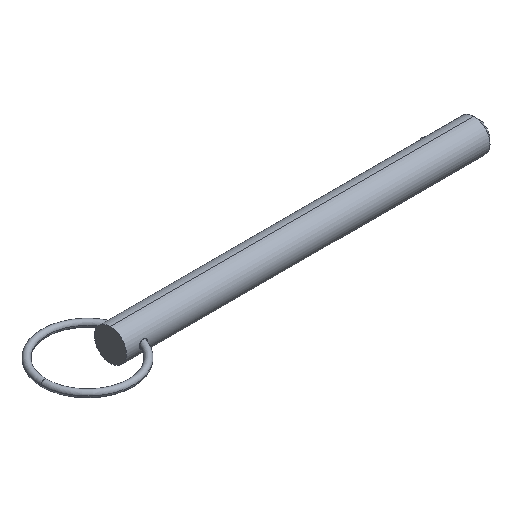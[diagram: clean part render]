
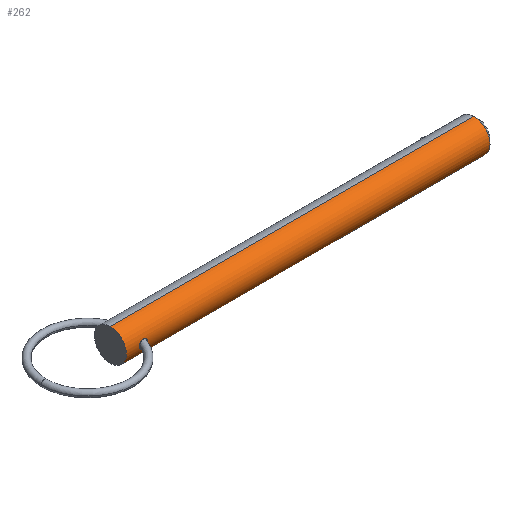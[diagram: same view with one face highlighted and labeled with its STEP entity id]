
A CAD part, isometric view. The second image highlights one B-rep face of the part: STEP entity #262.
In plain terms, the highlighted cylindrical face has radius 4.7 mm (diameter 9.4 mm), a partial arc.
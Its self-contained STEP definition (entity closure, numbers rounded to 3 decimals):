
#12 = CARTESIAN_POINT ( 'NONE',  ( 106.775, 0., 4.7 ) ) ;
#27 = CARTESIAN_POINT ( 'NONE',  ( 3.818, -4.7, 0.16 ) ) ;
#34 = CARTESIAN_POINT ( 'NONE',  ( 106.775, 0., -4.7 ) ) ;
#53 = CARTESIAN_POINT ( 'NONE',  ( 3.829, -4.698, -0.161 ) ) ;
#64 = CARTESIAN_POINT ( 'NONE',  ( 6.094, -4.642, -0.742 ) ) ;
#72 = ORIENTED_EDGE ( 'NONE', *, *, #95, .T. ) ;
#95 = EDGE_CURVE ( 'NONE', #682, #363, #247, .T. ) ;
#126 = CARTESIAN_POINT ( 'NONE',  ( 3.895, -4.684, -0.39 ) ) ;
#128 = B_SPLINE_CURVE_WITH_KNOTS ( 'NONE', 3,
 ( #635, #27, #834, #241, #514, #299, #697, #172, #569, #771, #232, #505, #162, #706, #441, #381, #639, #534, #198, #657, #473, #327 ),
 .UNSPECIFIED., .F., .F.,
 ( 4, 2, 2, 2, 2, 2, 2, 2, 2, 2, 4 ),
 ( 0.001, 0.001, 0.002, 0.002, 0.003, 0.003, 0.003, 0.004, 0.004, 0.004, 0.005 ),
 .UNSPECIFIED. ) ;
#130 = CARTESIAN_POINT ( 'NONE',  ( 3.818, -4.7, 0. ) ) ;
#132 = AXIS2_PLACEMENT_3D ( 'NONE', #860, #462, #269 ) ;
#133 = LINE ( 'NONE', #538, #661 ) ;
#136 = CARTESIAN_POINT ( 'NONE',  ( 4.349, -4.607, -0.937 ) ) ;
#140 = ORIENTED_EDGE ( 'NONE', *, *, #417, .T. ) ;
#151 = VERTEX_POINT ( 'NONE', #469 ) ;
#162 = CARTESIAN_POINT ( 'NONE',  ( 5.503, -4.562, 1.13 ) ) ;
#166 = CARTESIAN_POINT ( 'NONE',  ( 6.35, -4.7, 0. ) ) ;
#172 = CARTESIAN_POINT ( 'NONE',  ( 4.788, -4.561, 1.135 ) ) ;
#186 = CYLINDRICAL_SURFACE ( 'NONE', #132, 4.7 ) ;
#198 = CARTESIAN_POINT ( 'NONE',  ( 6.193, -4.662, 0.614 ) ) ;
#232 = CARTESIAN_POINT ( 'NONE',  ( 5.266, -4.551, 1.173 ) ) ;
#240 = CARTESIAN_POINT ( 'NONE',  ( 6.35, -4.7, -0.161 ) ) ;
#241 = CARTESIAN_POINT ( 'NONE',  ( 4.005, -4.663, 0.605 ) ) ;
#242 = EDGE_CURVE ( 'NONE', #353, #700, #133, .T. ) ;
#246 = CARTESIAN_POINT ( 'NONE',  ( 0., 0., 4.7 ) ) ;
#247 = B_SPLINE_CURVE_WITH_KNOTS ( 'NONE', 3,
 ( #166, #240, #402, #595, #271, #64, #718, #736, #651, #733, #798, #398, #264, #655, #136, #725, #591, #126, #527, #53, #475, #130 ),
 .UNSPECIFIED., .F., .F.,
 ( 4, 2, 2, 2, 2, 2, 2, 2, 2, 2, 4 ),
 ( 0.005, 0.005, 0.005, 0.006, 0.006, 0.007, 0.007, 0.008, 0.008, 0.008, 0.009 ),
 .UNSPECIFIED. ) ;
#255 = EDGE_CURVE ( 'NONE', #700, #828, #813, .T. ) ;
#257 = FACE_BOUND ( 'NONE', #495, .T. ) ;
#262 = ADVANCED_FACE ( 'NONE', ( #600, #257 ), #186, .T. ) ;
#264 = CARTESIAN_POINT ( 'NONE',  ( 4.785, -4.561, -1.135 ) ) ;
#269 = DIRECTION ( 'NONE',  ( 0., 0., -1. ) ) ;
#271 = CARTESIAN_POINT ( 'NONE',  ( 6.185, -4.66, -0.612 ) ) ;
#283 = ORIENTED_EDGE ( 'NONE', *, *, #255, .F. ) ;
#299 = CARTESIAN_POINT ( 'NONE',  ( 4.352, -4.607, 0.938 ) ) ;
#319 = AXIS2_PLACEMENT_3D ( 'NONE', #486, #431, #560 ) ;
#327 = CARTESIAN_POINT ( 'NONE',  ( 6.35, -4.7, 0. ) ) ;
#329 = CARTESIAN_POINT ( 'NONE',  ( 106.775, 0., 0. ) ) ;
#332 = DIRECTION ( 'NONE',  ( 1., 0., 0. ) ) ;
#348 = ORIENTED_EDGE ( 'NONE', *, *, #656, .T. ) ;
#353 = VERTEX_POINT ( 'NONE', #246 ) ;
#363 = VERTEX_POINT ( 'NONE', #460 ) ;
#381 = CARTESIAN_POINT ( 'NONE',  ( 5.861, -4.601, 0.96 ) ) ;
#398 = CARTESIAN_POINT ( 'NONE',  ( 4.945, -4.552, -1.169 ) ) ;
#402 = CARTESIAN_POINT ( 'NONE',  ( 6.318, -4.691, -0.32 ) ) ;
#412 = DIRECTION ( 'NONE',  ( 0., 0., -1. ) ) ;
#417 = EDGE_CURVE ( 'NONE', #363, #682, #128, .T. ) ;
#418 = CARTESIAN_POINT ( 'NONE',  ( 6.35, -4.7, 0. ) ) ;
#431 = DIRECTION ( 'NONE',  ( 1., 0., 0. ) ) ;
#441 = CARTESIAN_POINT ( 'NONE',  ( 5.725, -4.583, 1.042 ) ) ;
#460 = CARTESIAN_POINT ( 'NONE',  ( 3.818, -4.7, 0. ) ) ;
#462 = DIRECTION ( 'NONE',  ( 1., 0., 0. ) ) ;
#469 = CARTESIAN_POINT ( 'NONE',  ( 0., 0., -4.7 ) ) ;
#473 = CARTESIAN_POINT ( 'NONE',  ( 6.35, -4.7, 0.161 ) ) ;
#475 = CARTESIAN_POINT ( 'NONE',  ( 3.818, -4.7, -0.08 ) ) ;
#486 = CARTESIAN_POINT ( 'NONE',  ( 0., 0., 0. ) ) ;
#491 = ORIENTED_EDGE ( 'NONE', *, *, #529, .T. ) ;
#495 = EDGE_LOOP ( 'NONE', ( #140, #72 ) ) ;
#505 = CARTESIAN_POINT ( 'NONE',  ( 5.424, -4.557, 1.149 ) ) ;
#514 = CARTESIAN_POINT ( 'NONE',  ( 4.108, -4.644, 0.73 ) ) ;
#527 = CARTESIAN_POINT ( 'NONE',  ( 3.867, -4.69, -0.315 ) ) ;
#529 = EDGE_CURVE ( 'NONE', #151, #828, #540, .T. ) ;
#534 = CARTESIAN_POINT ( 'NONE',  ( 6.1, -4.641, 0.749 ) ) ;
#538 = CARTESIAN_POINT ( 'NONE',  ( 0., 0., 4.7 ) ) ;
#540 = LINE ( 'NONE', #667, #842 ) ;
#551 = EDGE_LOOP ( 'NONE', ( #561, #348, #491, #283 ) ) ;
#560 = DIRECTION ( 'NONE',  ( 0., 0., -1. ) ) ;
#561 = ORIENTED_EDGE ( 'NONE', *, *, #242, .F. ) ;
#569 = CARTESIAN_POINT ( 'NONE',  ( 4.947, -4.552, 1.169 ) ) ;
#591 = CARTESIAN_POINT ( 'NONE',  ( 4.005, -4.663, -0.605 ) ) ;
#595 = CARTESIAN_POINT ( 'NONE',  ( 6.223, -4.669, -0.542 ) ) ;
#600 = FACE_OUTER_BOUND ( 'NONE', #551, .T. ) ;
#635 = CARTESIAN_POINT ( 'NONE',  ( 3.818, -4.7, 0. ) ) ;
#639 = CARTESIAN_POINT ( 'NONE',  ( 5.926, -4.611, 0.911 ) ) ;
#651 = CARTESIAN_POINT ( 'NONE',  ( 5.727, -4.582, -1.05 ) ) ;
#655 = CARTESIAN_POINT ( 'NONE',  ( 4.487, -4.589, -1.018 ) ) ;
#656 = EDGE_CURVE ( 'NONE', #353, #151, #688, .T. ) ;
#657 = CARTESIAN_POINT ( 'NONE',  ( 6.317, -4.691, 0.321 ) ) ;
#661 = VECTOR ( 'NONE', #852, 1000. ) ;
#662 = DIRECTION ( 'NONE',  ( 1., 0., 0. ) ) ;
#667 = CARTESIAN_POINT ( 'NONE',  ( 0., 0., -4.7 ) ) ;
#682 = VERTEX_POINT ( 'NONE', #418 ) ;
#688 = CIRCLE ( 'NONE', #319, 4.7 ) ;
#697 = CARTESIAN_POINT ( 'NONE',  ( 4.491, -4.588, 1.02 ) ) ;
#700 = VERTEX_POINT ( 'NONE', #12 ) ;
#706 = CARTESIAN_POINT ( 'NONE',  ( 5.654, -4.575, 1.076 ) ) ;
#718 = CARTESIAN_POINT ( 'NONE',  ( 6.041, -4.631, -0.803 ) ) ;
#725 = CARTESIAN_POINT ( 'NONE',  ( 4.107, -4.644, -0.729 ) ) ;
#733 = CARTESIAN_POINT ( 'NONE',  ( 5.427, -4.556, -1.156 ) ) ;
#736 = CARTESIAN_POINT ( 'NONE',  ( 5.867, -4.601, -0.966 ) ) ;
#771 = CARTESIAN_POINT ( 'NONE',  ( 5.187, -4.55, 1.177 ) ) ;
#787 = AXIS2_PLACEMENT_3D ( 'NONE', #329, #662, #412 ) ;
#798 = CARTESIAN_POINT ( 'NONE',  ( 5.265, -4.55, -1.18 ) ) ;
#813 = CIRCLE ( 'NONE', #787, 4.7 ) ;
#828 = VERTEX_POINT ( 'NONE', #34 ) ;
#834 = CARTESIAN_POINT ( 'NONE',  ( 3.859, -4.691, 0.32 ) ) ;
#842 = VECTOR ( 'NONE', #332, 1000. ) ;
#852 = DIRECTION ( 'NONE',  ( 1., 0., 0. ) ) ;
#860 = CARTESIAN_POINT ( 'NONE',  ( 0., 0., 0. ) ) ;
